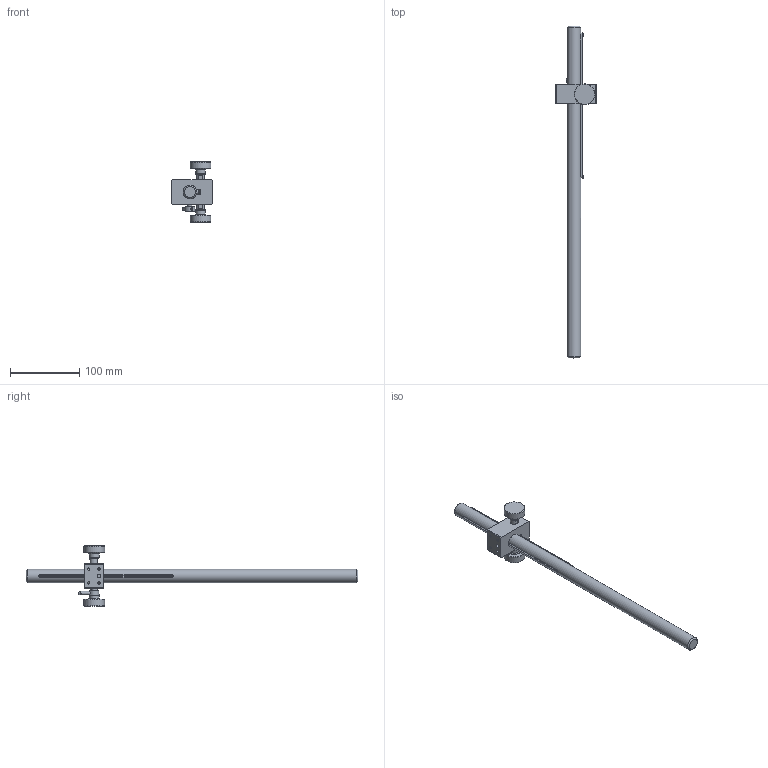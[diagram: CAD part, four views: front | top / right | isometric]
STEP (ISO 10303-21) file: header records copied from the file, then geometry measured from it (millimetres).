
FILE_DESCRIPTION (( 'STEP AP203' ), '1' );
FILE_NAME ('BZK480.STEP', '2024-08-06T01:49:29', ( 'Windows User' ), ( 'P R C' ), 'SwSTEP 2.0', 'SolidWorks 2024', '' );
FILE_SCHEMA (( 'CONFIG_CONTROL_DESIGN' ));
Products named in the file (1): BZK480
Bounding box: 58 x 480 x 87 mm (x, y, z)
Volume: 219390.6 mm3; surface area: 62820.1 mm2
Topology: 17 solids, 17 shells, 861 faces, 2388 edges, 1566 vertices
Faces by surface type: plane 679, cylinder 99, cone 38, bspline 33, sphere 6, torus 6
Full cylindrical faces by diameter (mm): 1.6 x4, 2 x4, 2.3 x2, 2.4 x2, 2.5 x4, 3 x1, 3.3 x7, 3.8 x4, 4 x1, 4.3 x2, 5 x3, 5.3 x1, 5.5 x1, 6 x1, 7 x5, 7.8 x2, 11.5 x2, 12.2 x2, 14 x3, 20 x1, 30 x2
Entity records: 137342 total; most frequent: CARTESIAN_POINT 116322, ORIENTED_EDGE 4476, DIRECTION 3951, EDGE_CURVE 2238, VECTOR 1799, LINE 1799, VERTEX_POINT 1525, AXIS2_PLACEMENT_3D 1076
